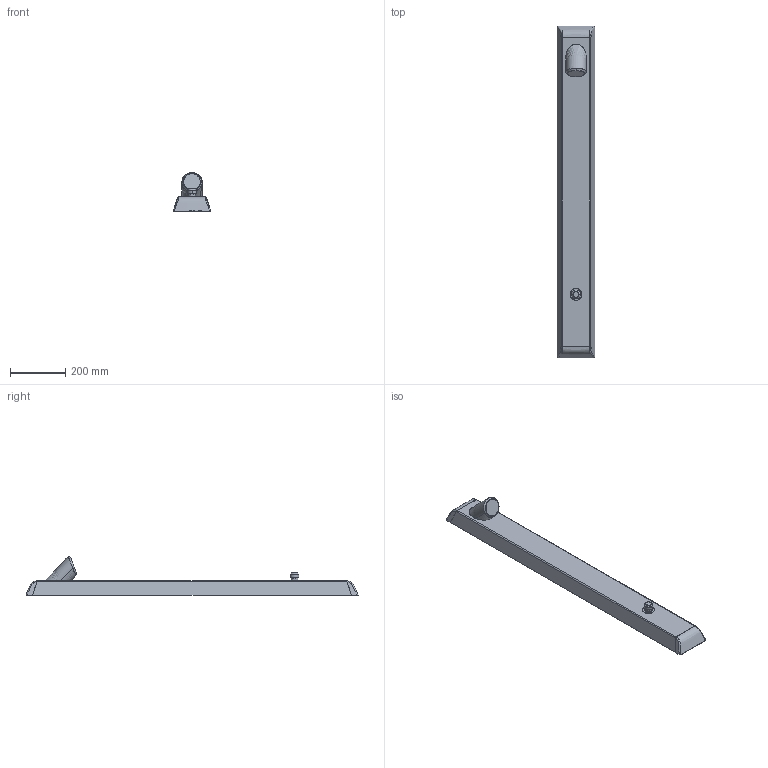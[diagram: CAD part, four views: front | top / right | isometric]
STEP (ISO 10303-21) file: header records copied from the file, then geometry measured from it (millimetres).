
FILE_DESCRIPTION (( 'STEP AP203' ), '1' );
FILE_NAME ('9600F(2026)+96001000(2026).STEP', '2026-02-10T09:06:23', ( '' ), ( '' ), 'SwSTEP 2.0', 'SolidWorks 2024', '' );
FILE_SCHEMA (( 'CONFIG_CONTROL_DESIGN' ));
Length unit declared in the file: millimetre
Products named in the file (1): 9600F(2026)+96001000(2026)
Bounding box: 135.43 x 1198.69 x 139.02 mm (x, y, z)
Volume: 7603732.6 mm3; surface area: 476332.2 mm2
Topology: 5 solids, 5 shells, 202 faces, 501 edges, 305 vertices
Faces by surface type: bspline 110, cylinder 51, plane 39, cone 2
Entity records: 14973 total; most frequent: CARTESIAN_POINT 11013, ORIENTED_EDGE 982, DIRECTION 556, EDGE_CURVE 491, VERTEX_POINT 305, B_SPLINE_CURVE_WITH_KNOTS 228, AXIS2_PLACEMENT_3D 223, EDGE_LOOP 208
